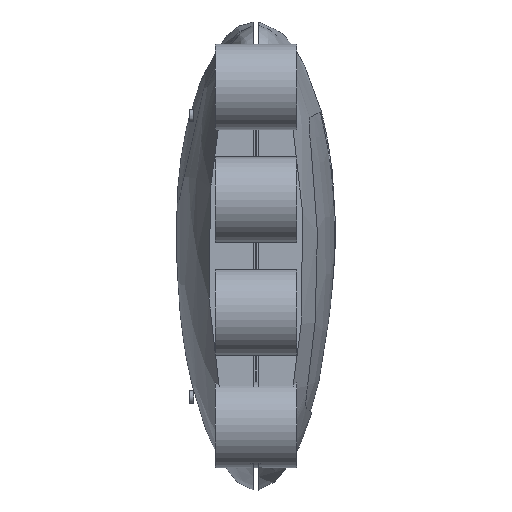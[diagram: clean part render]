
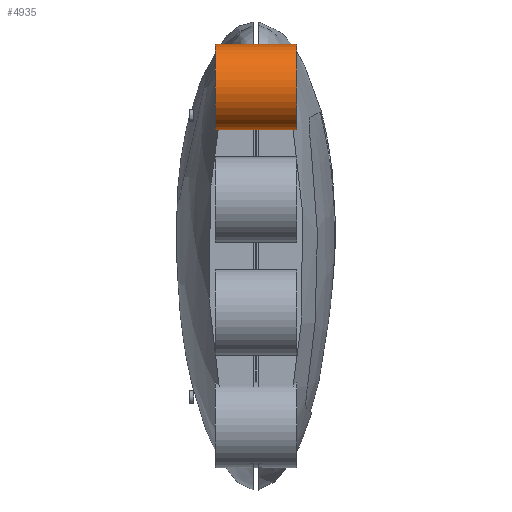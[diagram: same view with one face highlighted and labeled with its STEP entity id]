
A CAD part, top view. The second image highlights one B-rep face of the part: STEP entity #4935.
In plain terms, the highlighted cylindrical face has radius 7.6 mm (diameter 15.2 mm), a full revolution.
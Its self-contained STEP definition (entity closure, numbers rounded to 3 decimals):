
#4935 = ADVANCED_FACE('',(#4936),#4963,.T.);
#4936 = FACE_BOUND('',#4937,.T.);
#4937 = EDGE_LOOP('',(#4938,#4947,#4955,#4962));
#4938 = ORIENTED_EDGE('',*,*,#4939,.F.);
#4939 = EDGE_CURVE('',#4940,#4940,#4942,.T.);
#4940 = VERTEX_POINT('',#4941);
#4941 = CARTESIAN_POINT('',(7.25,30.,107.6));
#4942 = CIRCLE('',#4943,7.6);
#4943 = AXIS2_PLACEMENT_3D('',#4944,#4945,#4946);
#4944 = CARTESIAN_POINT('',(7.25,30.,100.));
#4945 = DIRECTION('',(1.,0.,0.));
#4946 = DIRECTION('',(-0.,0.,1.));
#4947 = ORIENTED_EDGE('',*,*,#4948,.F.);
#4948 = EDGE_CURVE('',#4949,#4940,#4951,.T.);
#4949 = VERTEX_POINT('',#4950);
#4950 = CARTESIAN_POINT('',(-7.25,30.,107.6));
#4951 = LINE('',#4952,#4953);
#4952 = CARTESIAN_POINT('',(-7.25,30.,107.6));
#4953 = VECTOR('',#4954,1.);
#4954 = DIRECTION('',(1.,0.,0.));
#4955 = ORIENTED_EDGE('',*,*,#4956,.T.);
#4956 = EDGE_CURVE('',#4949,#4949,#4957,.T.);
#4957 = CIRCLE('',#4958,7.6);
#4958 = AXIS2_PLACEMENT_3D('',#4959,#4960,#4961);
#4959 = CARTESIAN_POINT('',(-7.25,30.,100.));
#4960 = DIRECTION('',(1.,0.,0.));
#4961 = DIRECTION('',(-0.,0.,1.));
#4962 = ORIENTED_EDGE('',*,*,#4948,.T.);
#4963 = CYLINDRICAL_SURFACE('',#4964,7.6);
#4964 = AXIS2_PLACEMENT_3D('',#4965,#4966,#4967);
#4965 = CARTESIAN_POINT('',(-7.25,30.,100.));
#4966 = DIRECTION('',(1.,0.,0.));
#4967 = DIRECTION('',(-0.,0.,1.));
